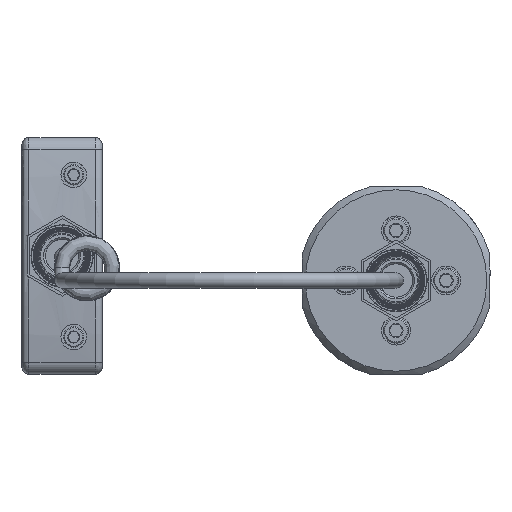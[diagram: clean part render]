
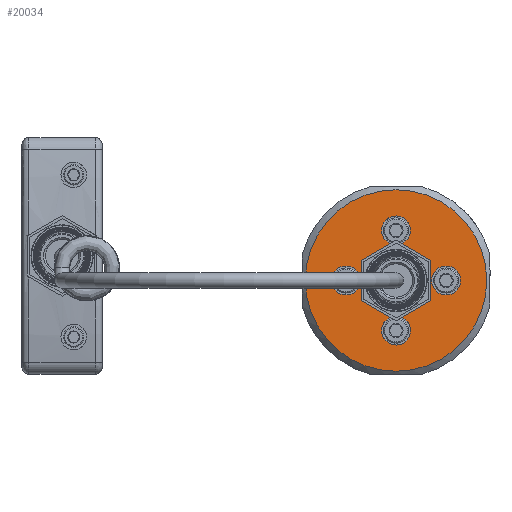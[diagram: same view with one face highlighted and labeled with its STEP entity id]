
A CAD part, left-side view. The second image highlights one B-rep face of the part: STEP entity #20034.
In plain terms, the highlighted planar face has unit normal (-1, 0, 0).
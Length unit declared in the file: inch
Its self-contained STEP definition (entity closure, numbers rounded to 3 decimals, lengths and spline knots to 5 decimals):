
#13006=CARTESIAN_POINT('',(35.92578,-10.33928,8.61617));
#13007=VERTEX_POINT('',#13006);
#13008=CARTESIAN_POINT('',(35.92578,-10.07875,8.76658));
#13009=VERTEX_POINT('',#13008);
#13010=CARTESIAN_POINT('',(35.92578,-10.33928,8.61617));
#13011=DIRECTION('',(0.0,0.866,0.5));
#13012=VECTOR('',#13011,0.30084);
#13013=LINE('',#13010,#13012);
#13014=EDGE_CURVE('',#13007,#13009,#13013,.T.);
#13119=CARTESIAN_POINT('',(35.92578,-10.44322,8.61617));
#13120=VERTEX_POINT('',#13119);
#13127=CARTESIAN_POINT('',(35.92578,-10.70375,8.76658));
#13128=VERTEX_POINT('',#13127);
#13129=CARTESIAN_POINT('',(35.92578,-10.70375,8.76658));
#13130=DIRECTION('',(0.0,0.866,-0.5));
#13131=VECTOR('',#13130,0.30084);
#13132=LINE('',#13129,#13131);
#13133=EDGE_CURVE('',#13128,#13120,#13132,.T.);
#13159=CARTESIAN_POINT('',(35.92578,-10.70375,9.12743));
#13160=VERTEX_POINT('',#13159);
#13161=CARTESIAN_POINT('',(35.92578,-10.70375,9.12743));
#13162=DIRECTION('',(0.0,0.0,-1.0));
#13163=VECTOR('',#13162,0.36084);
#13164=LINE('',#13161,#13163);
#13165=EDGE_CURVE('',#13160,#13128,#13164,.T.);
#19863=CARTESIAN_POINT('',(35.92578,-10.44322,9.27785));
#19864=VERTEX_POINT('',#19863);
#19880=CARTESIAN_POINT('',(35.92578,-10.44322,9.27785));
#19881=DIRECTION('',(0.0,-0.866,-0.5));
#19882=VECTOR('',#19881,0.30084);
#19883=LINE('',#19880,#19882);
#19884=EDGE_CURVE('',#19864,#13160,#19883,.T.);
#19894=CARTESIAN_POINT('',(35.92578,-10.07875,9.12743));
#19895=VERTEX_POINT('',#19894);
#19896=CARTESIAN_POINT('',(35.92578,-10.33928,9.27785));
#19897=VERTEX_POINT('',#19896);
#19898=CARTESIAN_POINT('',(35.92578,-10.07875,9.12743));
#19899=DIRECTION('',(0.0,-0.866,0.5));
#19900=VECTOR('',#19899,0.30084);
#19901=LINE('',#19898,#19900);
#19902=EDGE_CURVE('',#19895,#19897,#19901,.T.);
#19927=CARTESIAN_POINT('',(35.92578,-10.07875,8.76658));
#19928=DIRECTION('',(0.0,0.0,1.0));
#19929=VECTOR('',#19928,0.36084);
#19930=LINE('',#19927,#19929);
#19931=EDGE_CURVE('',#13009,#19895,#19930,.T.);
#19959=CARTESIAN_POINT('',(35.92578,-10.39125,9.39701));
#19960=DIRECTION('',(1.0,0.0,0.0));
#19961=DIRECTION('',(0.0,0.0,-1.0));
#19962=AXIS2_PLACEMENT_3D('',#19959,#19960,#19961);
#19963=CIRCLE('',#19962,0.13);
#19964=EDGE_CURVE('',#19897,#19864,#19963,.T.);
#19980=CARTESIAN_POINT('',(35.92578,-10.39125,8.94701));
#19981=DIRECTION('',(-1.0,0.0,0.0));
#19982=DIRECTION('',(0.0,0.0,1.0));
#19983=AXIS2_PLACEMENT_3D('',#19980,#19981,#19982);
#19984=PLANE('',#19983);
#19985=CARTESIAN_POINT('',(35.92578,-10.39125,8.13201));
#19986=VERTEX_POINT('',#19985);
#19987=CARTESIAN_POINT('',(35.92578,-10.39125,8.94701));
#19988=DIRECTION('',(-1.0,0.0,0.0));
#19989=DIRECTION('',(0.0,0.0,-1.0));
#19990=AXIS2_PLACEMENT_3D('',#19987,#19988,#19989);
#19991=CIRCLE('',#19990,0.815);
#19992=EDGE_CURVE('',#19986,#19986,#19991,.T.);
#19993=ORIENTED_EDGE('',*,*,#19992,.T.);
#19994=EDGE_LOOP('',(#19993));
#19995=FACE_OUTER_BOUND('',#19994,.T.);
#19996=ORIENTED_EDGE('',*,*,#13014,.T.);
#19997=ORIENTED_EDGE('',*,*,#19931,.T.);
#19998=ORIENTED_EDGE('',*,*,#19902,.T.);
#19999=ORIENTED_EDGE('',*,*,#19964,.T.);
#20000=ORIENTED_EDGE('',*,*,#19884,.T.);
#20001=ORIENTED_EDGE('',*,*,#13165,.T.);
#20002=ORIENTED_EDGE('',*,*,#13133,.T.);
#20003=CARTESIAN_POINT('',(35.92578,-10.39125,8.49701));
#20004=DIRECTION('',(1.0,0.0,0.0));
#20005=DIRECTION('',(0.0,0.0,-1.0));
#20006=AXIS2_PLACEMENT_3D('',#20003,#20004,#20005);
#20007=CIRCLE('',#20006,0.13);
#20008=EDGE_CURVE('',#13120,#13007,#20007,.T.);
#20009=ORIENTED_EDGE('',*,*,#20008,.T.);
#20010=EDGE_LOOP('',(#19996,#19997,#19998,#19999,#20000,#20001,#20002,#20009));
#20011=FACE_BOUND('',#20010,.T.);
#20012=CARTESIAN_POINT('',(35.92578,-9.94125,8.81701));
#20013=VERTEX_POINT('',#20012);
#20014=CARTESIAN_POINT('',(35.92578,-9.94125,8.94701));
#20015=DIRECTION('',(1.0,0.0,0.0));
#20016=DIRECTION('',(0.0,0.0,-1.0));
#20017=AXIS2_PLACEMENT_3D('',#20014,#20015,#20016);
#20018=CIRCLE('',#20017,0.13);
#20019=EDGE_CURVE('',#20013,#20013,#20018,.T.);
#20020=ORIENTED_EDGE('',*,*,#20019,.T.);
#20021=EDGE_LOOP('',(#20020));
#20022=FACE_BOUND('',#20021,.T.);
#20023=CARTESIAN_POINT('',(35.92578,-10.84125,8.81701));
#20024=VERTEX_POINT('',#20023);
#20025=CARTESIAN_POINT('',(35.92578,-10.84125,8.94701));
#20026=DIRECTION('',(1.0,0.0,0.0));
#20027=DIRECTION('',(0.0,0.0,-1.0));
#20028=AXIS2_PLACEMENT_3D('',#20025,#20026,#20027);
#20029=CIRCLE('',#20028,0.13);
#20030=EDGE_CURVE('',#20024,#20024,#20029,.T.);
#20031=ORIENTED_EDGE('',*,*,#20030,.T.);
#20032=EDGE_LOOP('',(#20031));
#20033=FACE_BOUND('',#20032,.T.);
#20034=ADVANCED_FACE('',(#19995,#20011,#20022,#20033),#19984,.T.);
